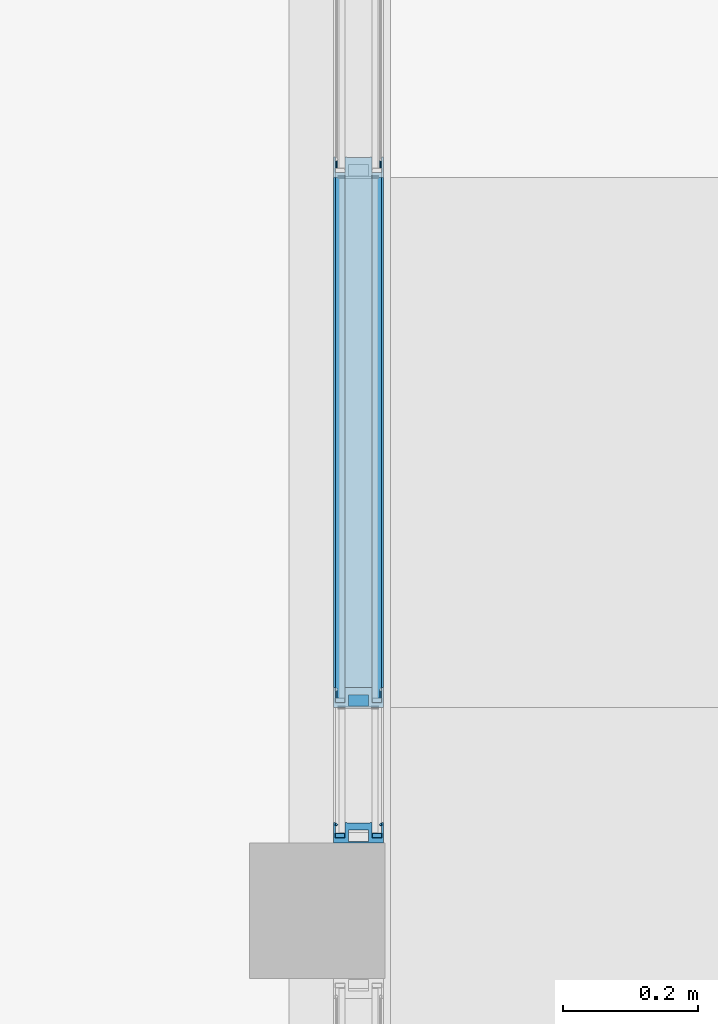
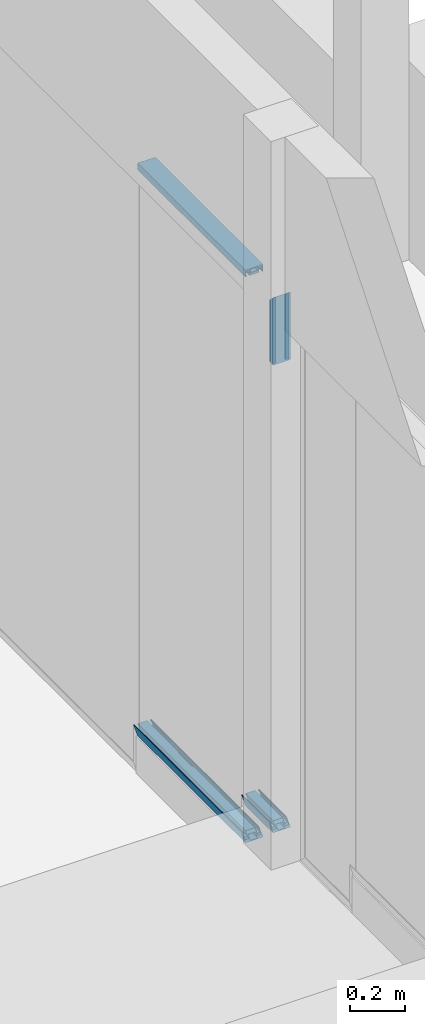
# One storey, part 44 of 65: 8 building element parts, 5 elements without a shape of their own.
"""IFC2X3 building model written with IfcOpenShell, lengths in millimetres."""

from ifc_helpers import new_model, entity, si_unit, converted_unit, derived_unit, money_unit, direction, frame, origin_with_axes, place, context, subcontext, project, spatial, faceted_brep, material, type_object, element, aggregate, save


model = new_model("IFC2X3")

# Units and contexts
model_context = context("Model", 3, precision=0.01, world=origin_with_axes(), true_north=direction((0.0, 1.0)))
body_context = subcontext(model_context, "Body", "Model", "MODEL_VIEW")
ifc_project = project(units=[si_unit("LENGTHUNIT", "METRE", prefix="MILLI"), si_unit("AREAUNIT", "SQUARE_METRE"), si_unit("VOLUMEUNIT", "CUBIC_METRE"), converted_unit("PLANEANGLEUNIT", "DEGREE", entity("IfcPlaneAngleMeasure", 0.0174532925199), si_unit("PLANEANGLEUNIT", "RADIAN"), dimensions=[0, 0, 0, 0, 0, 0, 0]), si_unit("SOLIDANGLEUNIT", "STERADIAN"), money_unit("EUR"), converted_unit("TIMEUNIT", "Year", entity("IfcTimeMeasure", 31556926.0), si_unit("TIMEUNIT", "SECOND"), dimensions=[0, 0, 1, 0, 0, 0, 0]), si_unit("MASSUNIT", "GRAM", prefix="KILO"), si_unit("THERMODYNAMICTEMPERATUREUNIT", "DEGREE_CELSIUS"), si_unit("LUMINOUSINTENSITYUNIT", "LUMEN"), si_unit("ENERGYUNIT", "JOULE", prefix="MEGA"), derived_unit("THERMALCONDUCTANCEUNIT", [(si_unit("POWERUNIT", "WATT"), 1), (si_unit("LENGTHUNIT", "METRE"), -1), (si_unit("THERMODYNAMICTEMPERATUREUNIT", "KELVIN"), -1)]), derived_unit("SPECIFICHEATCAPACITYUNIT", [(si_unit("ENERGYUNIT", "JOULE"), 1), (si_unit("MASSUNIT", "GRAM", prefix="KILO"), -1), (si_unit("THERMODYNAMICTEMPERATUREUNIT", "KELVIN"), -1)]), derived_unit("MASSDENSITYUNIT", [(si_unit("MASSUNIT", "GRAM", prefix="KILO"), 1), (si_unit("VOLUMEUNIT", "CUBIC_METRE"), -1)])], contexts=[model_context])

# Site, building, storey
site_placement = place(None, origin_with_axes())
site = spatial("IfcSite", under=ifc_project, at=site_placement, Name="Puškini 31, Narva", CompositionType="ELEMENT")
building_placement = place(site_placement, origin_with_axes())
building = spatial("IfcBuilding", under=site, at=building_placement, Name="Narva Riigigümnaasium", CompositionType="ELEMENT")
storey_placement = place(building_placement, frame((0.0, 0.0, -1320.0), z_axis=(0.0, 0.0, 1.0), x_axis=(1.0, 0.0, 0.0)))
storey = spatial("IfcBuildingStorey", under=building, at=storey_placement, Name="1.korrus -1.32", CompositionType="ELEMENT", Elevation=-1320.0)

# Curtain wall, members, building element parts
curtain_wall_type = type_object("IfcCurtainWallType", Name="Curtain Wall Type", PredefinedType="NOTDEFINED")
curtain_wall_placement = place(storey_placement, frame((30362.9999988, 164066.428557, -5.96047033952e-06), z_axis=(0.0, 0.0, 1.0), x_axis=(1.0, 0.0, 0.0)))
curtain_wall = element("IfcCurtainWall", 1, at=curtain_wall_placement, inside=storey, type_object=curtain_wall_type, Name="G-SKLF-04")
member_type_1 = type_object("IfcMemberType", Name="Boundary Frame 30 x 37", PredefinedType="MULLION")
member_1_placement = place(curtain_wall_placement, frame((0.0, -166.62855803, 2700.000022), z_axis=(0.0, 1.0, 0.0), x_axis=(0.0, 0.0, 1.0)))
member_1 = element("IfcMember", 2, at=member_1_placement, type_object=member_type_1, Name="G-SKLF-30-raam", ObjectType="MULLION")
ifc_material_1 = material(Name="Klaasvill")
building_element_part_1_placement = place(member_1_placement, origin_with_axes())
building_element_part_1 = element("IfcBuildingElementPart", 3, at=building_element_part_1_placement, material=ifc_material_1, Name="Klaasvill", context=body_context, shape_type="Brep", body=[
    faceted_brep([(-7.49999990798, 20.000000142, 0.0), (-7.49999990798, 20.000000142, 783.0), (-13.8499999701, 20.000000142, 783.0), (-13.8499999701, 20.000000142, 0.0), (-7.49999990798, 34.0161444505, 0.0), (-7.49999990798, 34.0161444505, 783.0), (-13.8499999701, 34.0161444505, 783.0), (-13.8499999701, 34.0161444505, 0.0)], [[[0, 1, 2, 3]], [[4, 5, 1, 0]], [[1, 5, 6, 2]], [[3, 2, 6, 7]], [[0, 3, 7, 4]], [[7, 6, 5, 4]]]),
    faceted_brep([(-24.987414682, 34.0161444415, 0.0), (-24.987414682, 34.0161444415, 783.0), (-25.004489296, 32.0307503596, 783.0), (-25.004489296, 32.0307503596, 0.0), (-28.5126239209, 34.0161444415, 0.0), (-28.5126239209, 34.0161444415, 783.0), (-28.7655837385, 33.0385325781, 783.0), (-28.4955493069, 32.0307503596, 783.0), (-27.75780152, 31.2930025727, 783.0), (-26.7500193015, 31.0229681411, 783.0), (-25.742237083, 31.2930025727, 783.0), (-25.742237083, 31.2930025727, 0.0), (-26.7500193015, 31.0229681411, 0.0), (-27.75780152, 31.2930025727, 0.0), (-28.4955493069, 32.0307503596, 0.0), (-28.7655837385, 33.0385325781, 0.0)], [[[0, 1, 2, 3]], [[4, 5, 1, 0]], [[1, 5, 6, 7, 8, 9, 10, 2]], [[3, 2, 10, 11]], [[0, 3, 11, 12, 13, 14, 15, 4]], [[15, 6, 5, 4]], [[14, 7, 6, 15]], [[13, 8, 7, 14]], [[12, 9, 8, 13]], [[11, 10, 9, 12]]]),
    faceted_brep([(-7.49999990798, -19.9999997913, 0.0), (-7.49999990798, -19.9999997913, 783.0), (-7.49999990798, -34.0161445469, 783.0), (-7.49999990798, -34.0161445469, 0.0), (-13.8499999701, -19.9999997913, 0.0), (-13.8499999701, -19.9999997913, 783.0), (-13.8499999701, -34.0161445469, 783.0), (-13.8499999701, -34.0161445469, 0.0)], [[[0, 1, 2, 3]], [[4, 5, 1, 0]], [[1, 5, 6, 2]], [[3, 2, 6, 7]], [[0, 3, 7, 4]], [[7, 6, 5, 4]]]),
    faceted_brep([(-25.004489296, -32.0307503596, 0.0), (-25.004489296, -32.0307503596, 783.0), (-24.987414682, -34.0161444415, 783.0), (-24.987414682, -34.0161444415, 0.0), (-25.742237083, -31.2930025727, 0.0), (-25.742237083, -31.2930025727, 783.0), (-26.7500193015, -31.0229681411, 783.0), (-27.75780152, -31.2930025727, 783.0), (-28.4955493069, -32.0307503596, 783.0), (-28.7655837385, -33.0385325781, 783.0), (-28.5126239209, -34.0161444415, 783.0), (-28.5126239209, -34.0161444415, 0.0), (-28.7655837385, -33.0385325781, 0.0), (-28.4955493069, -32.0307503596, 0.0), (-27.75780152, -31.2930025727, 0.0), (-26.7500193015, -31.0229681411, 0.0)], [[[0, 1, 2, 3]], [[4, 5, 1, 0]], [[1, 5, 6, 7, 8, 9, 10, 2]], [[3, 2, 10, 11]], [[0, 3, 11, 12, 13, 14, 15, 4]], [[15, 6, 5, 4]], [[14, 7, 6, 15]], [[13, 8, 7, 14]], [[12, 9, 8, 13]], [[11, 10, 9, 12]]]),
])
ifc_material_2 = material(Name="Teras RAL7012")
building_element_part_2_placement = place(member_1_placement, origin_with_axes())
building_element_part_2 = element("IfcBuildingElementPart", 4, at=building_element_part_2_placement, material=ifc_material_2, Name="Teras RAL7012", context=body_context, shape_type="Brep", body=[
    faceted_brep([(0.0, -17.0000000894, 0.0), (0.0, -17.0000000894, 783.0), (-29.5999996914, -17.0000000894, 783.0), (-29.5999996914, -17.0000000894, 0.0), (0.0, 17.0000000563, 0.0), (0.0, 17.0000000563, 783.0), (-29.5999996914, 17.0000000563, 783.0), (-1.9999999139, 15.0000001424, 783.0), (-1.9999999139, -15.0000001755, 783.0), (-18.7999996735, -15.0000001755, 783.0), (-18.7999996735, 15.0000001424, 783.0), (-29.5999996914, 17.0000000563, 0.0), (-1.9999999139, 15.0000001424, 0.0), (-18.7999996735, 15.0000001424, 0.0), (-18.7999996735, -15.0000001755, 0.0), (-1.9999999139, -15.0000001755, 0.0)], [[[0, 1, 2, 3]], [[4, 5, 1, 0]], [[1, 5, 6, 2], [7, 8, 9, 10]], [[3, 2, 6, 11]], [[0, 3, 11, 4], [12, 13, 14, 15]], [[11, 6, 5, 4]], [[15, 8, 7, 12]], [[14, 9, 8, 15]], [[13, 10, 9, 14]], [[12, 7, 10, 13]]]),
    faceted_brep([(0.0, 17.0, 0.0), (0.0, 17.0, 783.0), (-29.5999996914, 17.0000000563, 783.0), (-29.5999996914, 17.0000000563, 0.0), (0.0, 37.0, 0.0), (0.0, 37.0, 783.0), (-30.0000193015, 37.0, 783.0), (-30.0000193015, 34.0161444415, 783.0), (-28.5126239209, 34.0161444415, 783.0), (-24.987414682, 34.0161444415, 783.0), (-13.8499999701, 34.0161444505, 783.0), (-7.49999999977, 34.0161444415, 783.0), (-7.49999999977, 20.0, 783.0), (-13.8499999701, 20.000000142, 783.0), (-30.0000193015, 20.0, 783.0), (-30.0000193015, 17.0, 783.0), (-30.0000193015, 17.0, 0.0), (-30.0000193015, 20.0, 0.0), (-13.8499999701, 20.000000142, 0.0), (-7.49999999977, 20.0, 0.0), (-7.49999999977, 34.0161444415, 0.0), (-13.8499999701, 34.0161444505, 0.0), (-24.987414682, 34.0161444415, 0.0), (-28.5126239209, 34.0161444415, 0.0), (-30.0000193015, 34.0161444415, 0.0), (-30.0000193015, 37.0, 0.0)], [[[0, 1, 2, 3]], [[4, 5, 1, 0]], [[1, 5, 6, 7, 8, 9, 10, 11, 12, 13, 14, 15, 2]], [[3, 2, 15, 16]], [[0, 3, 16, 17, 18, 19, 20, 21, 22, 23, 24, 25, 4]], [[25, 6, 5, 4]], [[24, 7, 6, 25]], [[23, 8, 7, 24]], [[22, 9, 8, 23]], [[21, 10, 9, 22]], [[20, 11, 10, 21]], [[19, 12, 11, 20]], [[18, 13, 12, 19]], [[17, 14, 13, 18]], [[16, 15, 14, 17]]]),
    faceted_brep([(0.0, -17.0, 0.0), (0.0, -17.0, 783.0), (0.0, -37.0, 783.0), (0.0, -37.0, 0.0), (-29.5999996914, -17.0000000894, 0.0), (-29.5999996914, -17.0000000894, 783.0), (-30.0000193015, -17.0, 783.0), (-30.0000193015, -20.0, 783.0), (-13.8499999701, -19.9999997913, 783.0), (-7.49999999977, -20.0, 783.0), (-7.49999999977, -34.0161444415, 783.0), (-13.8499999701, -34.0161445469, 783.0), (-24.987414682, -34.0161444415, 783.0), (-28.5126239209, -34.0161444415, 783.0), (-30.0000193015, -34.0161444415, 783.0), (-30.0000193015, -37.0, 783.0), (-30.0000193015, -37.0, 0.0), (-30.0000193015, -34.0161444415, 0.0), (-28.5126239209, -34.0161444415, 0.0), (-24.987414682, -34.0161444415, 0.0), (-13.8499999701, -34.0161445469, 0.0), (-7.49999999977, -34.0161444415, 0.0), (-7.49999999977, -20.0, 0.0), (-13.8499999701, -19.9999997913, 0.0), (-30.0000193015, -20.0, 0.0), (-30.0000193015, -17.0, 0.0)], [[[0, 1, 2, 3]], [[4, 5, 1, 0]], [[1, 5, 6, 7, 8, 9, 10, 11, 12, 13, 14, 15, 2]], [[3, 2, 15, 16]], [[0, 3, 16, 17, 18, 19, 20, 21, 22, 23, 24, 25, 4]], [[25, 6, 5, 4]], [[24, 7, 6, 25]], [[23, 8, 7, 24]], [[22, 9, 8, 23]], [[21, 10, 9, 22]], [[20, 11, 10, 21]], [[19, 12, 11, 20]], [[18, 13, 12, 19]], [[17, 14, 13, 18]], [[16, 15, 14, 17]]]),
])
aggregate(member_1, [building_element_part_1, building_element_part_2])
member_2_placement = place(curtain_wall_placement, frame((0.0, -366.428604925, 2700.000022), z_axis=(0.0, 0.0, -1.0), x_axis=(0.0, 1.0, 0.0)))
member_2 = element("IfcMember", 5, at=member_2_placement, type_object=member_type_1, Name="G-SKLF-32-raam", ObjectType="MULLION")
building_element_part_3_placement = place(member_2_placement, origin_with_axes())
building_element_part_3 = element("IfcBuildingElementPart", 6, at=building_element_part_3_placement, material=ifc_material_1, Name="Klaasvill", context=body_context, shape_type="Brep", body=[
    faceted_brep([(13.8499999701, 20.000000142, 13.8499999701), (13.8499999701, 20.000000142, 300.000016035), (7.49999990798, 20.000000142, 300.000016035), (7.49999990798, 20.000000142, 7.49999990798), (13.8499999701, 34.0161444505, 13.8499999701), (13.8499999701, 34.0161444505, 300.000016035), (7.49999990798, 34.0161444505, 300.000016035), (7.49999990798, 34.0161444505, 7.49999990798)], [[[0, 1, 2, 3]], [[4, 5, 1, 0]], [[2, 1, 5, 6]], [[3, 2, 6, 7]], [[3, 7, 4, 0]], [[7, 6, 5, 4]]]),
    faceted_brep([(25.004489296, 32.0307503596, 25.004489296), (25.004489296, 32.0307503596, 300.000016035), (24.987414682, 34.0161444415, 300.000016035), (24.987414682, 34.0161444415, 24.987414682), (25.742237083, 31.2930025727, 25.742237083), (25.742237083, 31.2930025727, 300.000016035), (26.7500193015, 31.0229681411, 300.000016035), (27.75780152, 31.2930025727, 300.000016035), (28.4955493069, 32.0307503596, 300.000016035), (28.7655837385, 33.0385325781, 300.000016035), (28.5126239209, 34.0161444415, 300.000016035), (28.5126239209, 34.0161444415, 28.5126239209), (28.7655837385, 33.0385325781, 28.7655837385), (28.4955493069, 32.0307503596, 28.4955493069), (27.75780152, 31.2930025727, 27.75780152), (26.7500193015, 31.0229681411, 26.7500193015)], [[[0, 1, 2, 3]], [[4, 5, 1, 0]], [[2, 1, 5, 6, 7, 8, 9, 10]], [[3, 2, 10, 11]], [[3, 11, 12, 13, 14, 15, 4, 0]], [[15, 6, 5, 4]], [[14, 7, 6, 15]], [[13, 8, 7, 14]], [[12, 9, 8, 13]], [[11, 10, 9, 12]]]),
    faceted_brep([(7.49999990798, -34.0161445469, 7.49999990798), (7.49999990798, -34.0161445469, 300.000016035), (7.49999990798, -19.9999997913, 300.000016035), (7.49999990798, -19.9999997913, 7.49999990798), (13.8499999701, -34.0161445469, 13.8499999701), (13.8499999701, -34.0161445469, 300.000016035), (13.8499999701, -19.9999997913, 300.000016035), (13.8499999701, -19.9999997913, 13.8499999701)], [[[0, 1, 2, 3]], [[4, 5, 1, 0]], [[2, 1, 5, 6]], [[3, 2, 6, 7]], [[3, 7, 4, 0]], [[7, 6, 5, 4]]]),
    faceted_brep([(24.987414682, -34.0161444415, 24.987414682), (24.987414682, -34.0161444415, 300.000016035), (25.004489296, -32.0307503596, 300.000016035), (25.004489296, -32.0307503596, 25.004489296), (28.5126239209, -34.0161444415, 28.5126239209), (28.5126239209, -34.0161444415, 300.000016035), (28.7655837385, -33.0385325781, 300.000016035), (28.4955493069, -32.0307503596, 300.000016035), (27.75780152, -31.2930025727, 300.000016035), (26.7500193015, -31.0229681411, 300.000016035), (25.742237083, -31.2930025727, 300.000016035), (25.742237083, -31.2930025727, 25.742237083), (26.7500193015, -31.0229681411, 26.7500193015), (27.75780152, -31.2930025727, 27.75780152), (28.4955493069, -32.0307503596, 28.4955493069), (28.7655837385, -33.0385325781, 28.7655837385)], [[[0, 1, 2, 3]], [[4, 5, 1, 0]], [[2, 1, 5, 6, 7, 8, 9, 10]], [[3, 2, 10, 11]], [[3, 11, 12, 13, 14, 15, 4, 0]], [[15, 6, 5, 4]], [[14, 7, 6, 15]], [[13, 8, 7, 14]], [[12, 9, 8, 13]], [[11, 10, 9, 12]]]),
])
building_element_part_4_placement = place(member_2_placement, origin_with_axes())
building_element_part_4 = element("IfcBuildingElementPart", 7, at=building_element_part_4_placement, material=ifc_material_2, Name="Teras RAL7012", context=body_context, shape_type="Brep", body=[
    faceted_brep([(29.5999996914, -17.0000000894, 29.5999996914), (29.5999996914, -17.0000000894, 300.000016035), (0.0, -17.0000000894, 300.000016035), (0.0, -17.0000000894, 0.0), (29.5999996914, 17.0000000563, 29.5999996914), (29.5999996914, 17.0000000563, 300.000016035), (0.0, 17.0000000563, 300.000016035), (1.9999999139, 15.0000001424, 300.000016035), (18.7999996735, 15.0000001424, 300.000016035), (18.7999996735, -15.0000001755, 300.000016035), (1.9999999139, -15.0000001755, 300.000016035), (0.0, 17.0000000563, 0.0), (1.9999999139, 15.0000001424, 1.9999999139), (1.9999999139, -15.0000001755, 1.9999999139), (18.7999996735, -15.0000001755, 18.7999996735), (18.7999996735, 15.0000001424, 18.7999996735)], [[[0, 1, 2, 3]], [[4, 5, 1, 0]], [[2, 1, 5, 6], [7, 8, 9, 10]], [[3, 2, 6, 11]], [[3, 11, 4, 0], [12, 13, 14, 15]], [[11, 6, 5, 4]], [[15, 8, 7, 12]], [[14, 9, 8, 15]], [[13, 10, 9, 14]], [[12, 7, 10, 13]]]),
    faceted_brep([(29.5999996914, 17.0000000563, 29.5999996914), (29.5999996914, 17.0000000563, 300.000016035), (0.0, 17.0, 300.000016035), (0.0, 17.0, 0.0), (30.0000193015, 17.0, 30.0000193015), (30.0000193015, 17.0, 300.000016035), (30.0000193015, 20.0, 300.000016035), (13.8499999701, 20.000000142, 300.000016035), (7.49999999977, 20.0, 300.000016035), (7.49999999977, 34.0161444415, 300.000016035), (13.8499999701, 34.0161444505, 300.000016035), (24.987414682, 34.0161444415, 300.000016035), (28.5126239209, 34.0161444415, 300.000016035), (30.0000193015, 34.0161444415, 300.000016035), (30.0000193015, 37.0, 300.000016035), (0.0, 37.0, 300.000016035), (0.0, 37.0, 0.0), (30.0000193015, 37.0, 30.0000193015), (30.0000193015, 34.0161444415, 30.0000193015), (28.5126239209, 34.0161444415, 28.5126239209), (24.987414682, 34.0161444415, 24.987414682), (13.8499999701, 34.0161444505, 13.8499999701), (7.49999999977, 34.0161444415, 7.49999999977), (7.49999999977, 20.0, 7.49999999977), (13.8499999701, 20.000000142, 13.8499999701), (30.0000193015, 20.0, 30.0000193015)], [[[0, 1, 2, 3]], [[4, 5, 1, 0]], [[2, 1, 5, 6, 7, 8, 9, 10, 11, 12, 13, 14, 15]], [[3, 2, 15, 16]], [[3, 16, 17, 18, 19, 20, 21, 22, 23, 24, 25, 4, 0]], [[25, 6, 5, 4]], [[24, 7, 6, 25]], [[23, 8, 7, 24]], [[22, 9, 8, 23]], [[21, 10, 9, 22]], [[20, 11, 10, 21]], [[19, 12, 11, 20]], [[18, 13, 12, 19]], [[17, 14, 13, 18]], [[16, 15, 14, 17]]]),
    faceted_brep([(0.0, -37.0, 0.0), (0.0, -37.0, 300.000016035), (0.0, -17.0, 300.000016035), (0.0, -17.0, 0.0), (30.0000193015, -37.0, 30.0000193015), (30.0000193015, -37.0, 300.000016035), (30.0000193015, -34.0161444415, 300.000016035), (28.5126239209, -34.0161444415, 300.000016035), (24.987414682, -34.0161444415, 300.000016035), (13.8499999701, -34.0161445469, 300.000016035), (7.49999999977, -34.0161444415, 300.000016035), (7.49999999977, -20.0, 300.000016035), (13.8499999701, -19.9999997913, 300.000016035), (30.0000193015, -20.0, 300.000016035), (30.0000193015, -17.0, 300.000016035), (29.5999996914, -17.0000000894, 300.000016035), (29.5999996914, -17.0000000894, 29.5999996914), (30.0000193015, -17.0, 30.0000193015), (30.0000193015, -20.0, 30.0000193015), (13.8499999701, -19.9999997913, 13.8499999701), (7.49999999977, -20.0, 7.49999999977), (7.49999999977, -34.0161444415, 7.49999999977), (13.8499999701, -34.0161445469, 13.8499999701), (24.987414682, -34.0161444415, 24.987414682), (28.5126239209, -34.0161444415, 28.5126239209), (30.0000193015, -34.0161444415, 30.0000193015)], [[[0, 1, 2, 3]], [[4, 5, 1, 0]], [[2, 1, 5, 6, 7, 8, 9, 10, 11, 12, 13, 14, 15]], [[3, 2, 15, 16]], [[3, 16, 17, 18, 19, 20, 21, 22, 23, 24, 25, 4, 0]], [[25, 6, 5, 4]], [[24, 7, 6, 25]], [[23, 8, 7, 24]], [[22, 9, 8, 23]], [[21, 10, 9, 22]], [[20, 11, 10, 21]], [[19, 12, 11, 20]], [[18, 13, 12, 19]], [[17, 14, 13, 18]], [[16, 15, 14, 17]]]),
])
aggregate(member_2, [building_element_part_3, building_element_part_4])
member_type_2 = type_object("IfcMemberType", Name="30 x 37", PredefinedType="MULLION")
member_3_placement = place(curtain_wall_placement, frame((0.0, -166.62855803, 165.000000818), z_axis=(0.0, 1.0, 0.0), x_axis=(0.0, 0.0, 1.0)))
member_3 = element("IfcMember", 8, at=member_3_placement, type_object=member_type_2, Name="G-SKLF-37-raam", ObjectType="MULLION")
building_element_part_5_placement = place(member_3_placement, origin_with_axes())
building_element_part_5 = element("IfcBuildingElementPart", 9, at=building_element_part_5_placement, material=ifc_material_1, Name="Klaasvill", context=body_context, shape_type="Brep", body=[
    faceted_brep([(13.8499999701, 20.000000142, 13.8499999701), (13.8499999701, 20.000000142, 796.84999997), (7.49999990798, 20.000000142, 790.499999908), (7.49999990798, 20.000000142, 7.49999990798), (13.8499999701, 34.0161444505, 13.8499999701), (13.8499999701, 34.0161444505, 796.84999997), (7.49999990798, 34.0161444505, 790.499999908), (7.49999990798, 34.0161444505, 7.49999990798)], [[[0, 1, 2, 3]], [[4, 5, 1, 0]], [[2, 1, 5, 6]], [[3, 2, 6, 7]], [[3, 7, 4, 0]], [[7, 6, 5, 4]]]),
    faceted_brep([(25.004489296, 32.0307503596, 25.004489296), (25.004489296, 32.0307503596, 808.004489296), (24.987414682, 34.0161444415, 807.987414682), (24.987414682, 34.0161444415, 24.987414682), (25.742237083, 31.2930025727, 25.742237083), (25.742237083, 31.2930025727, 808.742237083), (26.7500193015, 31.0229681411, 809.750019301), (27.75780152, 31.2930025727, 810.75780152), (28.4955493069, 32.0307503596, 811.495549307), (28.7655837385, 33.0385325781, 811.765583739), (28.5126239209, 34.0161444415, 811.512623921), (28.5126239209, 34.0161444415, 28.5126239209), (28.7655837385, 33.0385325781, 28.7655837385), (28.4955493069, 32.0307503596, 28.4955493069), (27.75780152, 31.2930025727, 27.75780152), (26.7500193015, 31.0229681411, 26.7500193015)], [[[0, 1, 2, 3]], [[4, 5, 1, 0]], [[2, 1, 5, 6, 7, 8, 9, 10]], [[3, 2, 10, 11]], [[3, 11, 12, 13, 14, 15, 4, 0]], [[15, 6, 5, 4]], [[14, 7, 6, 15]], [[13, 8, 7, 14]], [[12, 9, 8, 13]], [[11, 10, 9, 12]]]),
    faceted_brep([(7.49999990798, -34.0161445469, 7.49999990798), (7.49999990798, -34.0161445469, 790.499999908), (7.49999990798, -19.9999997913, 790.499999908), (7.49999990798, -19.9999997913, 7.49999990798), (13.8499999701, -34.0161445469, 13.8499999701), (13.8499999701, -34.0161445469, 796.84999997), (13.8499999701, -19.9999997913, 796.84999997), (13.8499999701, -19.9999997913, 13.8499999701)], [[[0, 1, 2, 3]], [[4, 5, 1, 0]], [[2, 1, 5, 6]], [[3, 2, 6, 7]], [[3, 7, 4, 0]], [[7, 6, 5, 4]]]),
    faceted_brep([(24.987414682, -34.0161444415, 24.987414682), (24.987414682, -34.0161444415, 807.987414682), (25.004489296, -32.0307503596, 808.004489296), (25.004489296, -32.0307503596, 25.004489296), (28.5126239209, -34.0161444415, 28.5126239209), (28.5126239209, -34.0161444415, 811.512623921), (28.7655837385, -33.0385325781, 811.765583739), (28.4955493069, -32.0307503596, 811.495549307), (27.75780152, -31.2930025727, 810.75780152), (26.7500193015, -31.0229681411, 809.750019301), (25.742237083, -31.2930025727, 808.742237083), (25.742237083, -31.2930025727, 25.742237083), (26.7500193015, -31.0229681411, 26.7500193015), (27.75780152, -31.2930025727, 27.75780152), (28.4955493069, -32.0307503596, 28.4955493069), (28.7655837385, -33.0385325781, 28.7655837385)], [[[0, 1, 2, 3]], [[4, 5, 1, 0]], [[2, 1, 5, 6, 7, 8, 9, 10]], [[3, 2, 10, 11]], [[3, 11, 12, 13, 14, 15, 4, 0]], [[15, 6, 5, 4]], [[14, 7, 6, 15]], [[13, 8, 7, 14]], [[12, 9, 8, 13]], [[11, 10, 9, 12]]]),
])
building_element_part_6_placement = place(member_3_placement, origin_with_axes())
building_element_part_6 = element("IfcBuildingElementPart", 10, at=building_element_part_6_placement, material=ifc_material_2, Name="Teras RAL7012", context=body_context, shape_type="Brep", body=[
    faceted_brep([(29.5999996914, -17.0000000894, 29.5999996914), (29.5999996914, -17.0000000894, 812.599999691), (0.0, -17.0000000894, 783.0), (0.0, -17.0000000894, 0.0), (29.5999996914, 17.0000000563, 29.5999996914), (29.5999996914, 17.0000000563, 812.599999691), (0.0, 17.0000000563, 783.0), (1.9999999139, 15.0000001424, 784.999999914), (18.7999996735, 15.0000001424, 801.799999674), (18.7999996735, -15.0000001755, 801.799999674), (1.9999999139, -15.0000001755, 784.999999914), (0.0, 17.0000000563, 0.0), (1.9999999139, 15.0000001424, 1.9999999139), (1.9999999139, -15.0000001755, 1.9999999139), (18.7999996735, -15.0000001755, 18.7999996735), (18.7999996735, 15.0000001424, 18.7999996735)], [[[0, 1, 2, 3]], [[4, 5, 1, 0]], [[2, 1, 5, 6], [7, 8, 9, 10]], [[3, 2, 6, 11]], [[3, 11, 4, 0], [12, 13, 14, 15]], [[11, 6, 5, 4]], [[15, 8, 7, 12]], [[14, 9, 8, 15]], [[13, 10, 9, 14]], [[12, 7, 10, 13]]]),
    faceted_brep([(0.0, 17.0, 0.0), (0.0, 17.0, 783.0), (0.0, 37.0, 783.0), (0.0, 37.0, 0.0), (29.5999996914, 17.0000000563, 29.5999996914), (29.5999996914, 17.0000000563, 812.599999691), (30.0000193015, 17.0, 813.000019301), (30.0000193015, 20.0, 813.000019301), (13.8499999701, 20.000000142, 796.84999997), (7.49999999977, 20.0, 790.5), (7.49999999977, 34.0161444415, 790.5), (13.8499999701, 34.0161444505, 796.84999997), (24.987414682, 34.0161444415, 807.987414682), (28.5126239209, 34.0161444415, 811.512623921), (30.0000193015, 34.0161444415, 813.000019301), (30.0000193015, 37.0, 813.000019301), (30.0000193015, 37.0, 30.0000193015), (30.0000193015, 34.0161444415, 30.0000193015), (28.5126239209, 34.0161444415, 28.5126239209), (24.987414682, 34.0161444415, 24.987414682), (13.8499999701, 34.0161444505, 13.8499999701), (7.49999999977, 34.0161444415, 7.49999999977), (7.49999999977, 20.0, 7.49999999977), (13.8499999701, 20.000000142, 13.8499999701), (30.0000193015, 20.0, 30.0000193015), (30.0000193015, 17.0, 30.0000193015)], [[[0, 1, 2, 3]], [[1, 0, 4, 5]], [[2, 1, 5, 6, 7, 8, 9, 10, 11, 12, 13, 14, 15]], [[3, 2, 15, 16]], [[0, 3, 16, 17, 18, 19, 20, 21, 22, 23, 24, 25, 4]], [[5, 4, 25, 6]], [[6, 25, 24, 7]], [[23, 8, 7, 24]], [[22, 9, 8, 23]], [[9, 22, 21, 10]], [[10, 21, 20, 11]], [[11, 20, 19, 12]], [[12, 19, 18, 13]], [[13, 18, 17, 14]], [[15, 14, 17, 16]]]),
    faceted_brep([(0.0, -37.0, 0.0), (0.0, -37.0, 783.0), (0.0, -17.0, 783.0), (0.0, -17.0, 0.0), (30.0000193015, -37.0, 30.0000193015), (30.0000193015, -37.0, 813.000019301), (30.0000193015, -34.0161444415, 813.000019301), (28.5126239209, -34.0161444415, 811.512623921), (24.987414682, -34.0161444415, 807.987414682), (13.8499999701, -34.0161445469, 796.84999997), (7.49999999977, -34.0161444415, 790.5), (7.49999999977, -20.0, 790.5), (13.8499999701, -19.9999997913, 796.84999997), (30.0000193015, -20.0, 813.000019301), (30.0000193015, -17.0, 813.000019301), (29.5999996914, -17.0000000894, 812.599999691), (29.5999996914, -17.0000000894, 29.5999996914), (30.0000193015, -17.0, 30.0000193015), (30.0000193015, -20.0, 30.0000193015), (13.8499999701, -19.9999997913, 13.8499999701), (7.49999999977, -20.0, 7.49999999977), (7.49999999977, -34.0161444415, 7.49999999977), (13.8499999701, -34.0161445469, 13.8499999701), (24.987414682, -34.0161444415, 24.987414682), (28.5126239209, -34.0161444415, 28.5126239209), (30.0000193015, -34.0161444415, 30.0000193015)], [[[0, 1, 2, 3]], [[1, 0, 4, 5]], [[2, 1, 5, 6, 7, 8, 9, 10, 11, 12, 13, 14, 15]], [[3, 2, 15, 16]], [[0, 3, 16, 17, 18, 19, 20, 21, 22, 23, 24, 25, 4]], [[6, 5, 4, 25]], [[24, 7, 6, 25]], [[23, 8, 7, 24]], [[22, 9, 8, 23]], [[9, 22, 21, 10]], [[10, 21, 20, 11]], [[11, 20, 19, 12]], [[12, 19, 18, 13]], [[14, 13, 18, 17]], [[16, 15, 14, 17]]]),
])
aggregate(member_3, [building_element_part_5, building_element_part_6])
member_4_placement = place(curtain_wall_placement, frame((0.0, -366.428604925, 330.000000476), z_axis=(0.0, 1.0, 0.0), x_axis=(0.0, 0.0, 1.0)))
member_4 = element("IfcMember", 11, at=member_4_placement, type_object=member_type_2, Name="G-SKLF-38-raam", ObjectType="MULLION")
aggregate(curtain_wall, [member_1, member_2, member_3, member_4])
building_element_part_7_placement = place(member_4_placement, origin_with_axes())
building_element_part_7 = element("IfcBuildingElementPart", 12, at=building_element_part_7_placement, material=ifc_material_1, Name="Klaasvill", context=body_context, shape_type="Brep", body=[
    faceted_brep([(13.8499999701, 20.000000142, 13.8499999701), (13.8499999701, 20.000000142, 213.650046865), (7.49999990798, 20.000000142, 207.300046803), (7.49999990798, 20.000000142, 7.49999990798), (13.8499999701, 34.0161444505, 13.8499999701), (13.8499999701, 34.0161444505, 213.650046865), (7.49999990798, 34.0161444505, 207.300046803), (7.49999990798, 34.0161444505, 7.49999990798)], [[[0, 1, 2, 3]], [[4, 5, 1, 0]], [[2, 1, 5, 6]], [[3, 2, 6, 7]], [[3, 7, 4, 0]], [[7, 6, 5, 4]]]),
    faceted_brep([(25.004489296, 32.0307503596, 25.004489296), (25.004489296, 32.0307503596, 224.804536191), (24.987414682, 34.0161444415, 224.787461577), (24.987414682, 34.0161444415, 24.987414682), (25.742237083, 31.2930025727, 25.742237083), (25.742237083, 31.2930025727, 225.542283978), (26.7500193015, 31.0229681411, 226.550066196), (27.75780152, 31.2930025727, 227.557848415), (28.4955493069, 32.0307503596, 228.295596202), (28.7655837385, 33.0385325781, 228.565630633), (28.5126239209, 34.0161444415, 228.312670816), (28.5126239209, 34.0161444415, 28.5126239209), (28.7655837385, 33.0385325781, 28.7655837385), (28.4955493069, 32.0307503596, 28.4955493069), (27.75780152, 31.2930025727, 27.75780152), (26.7500193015, 31.0229681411, 26.7500193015)], [[[0, 1, 2, 3]], [[4, 5, 1, 0]], [[2, 1, 5, 6, 7, 8, 9, 10]], [[3, 2, 10, 11]], [[3, 11, 12, 13, 14, 15, 4, 0]], [[15, 6, 5, 4]], [[14, 7, 6, 15]], [[13, 8, 7, 14]], [[12, 9, 8, 13]], [[11, 10, 9, 12]]]),
    faceted_brep([(7.49999990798, -34.0161445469, 7.49999990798), (7.49999990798, -34.0161445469, 207.300046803), (7.49999990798, -19.9999997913, 207.300046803), (7.49999990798, -19.9999997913, 7.49999990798), (13.8499999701, -34.0161445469, 13.8499999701), (13.8499999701, -34.0161445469, 213.650046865), (13.8499999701, -19.9999997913, 213.650046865), (13.8499999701, -19.9999997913, 13.8499999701)], [[[0, 1, 2, 3]], [[4, 5, 1, 0]], [[2, 1, 5, 6]], [[3, 2, 6, 7]], [[3, 7, 4, 0]], [[7, 6, 5, 4]]]),
    faceted_brep([(24.987414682, -34.0161444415, 24.987414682), (24.987414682, -34.0161444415, 224.787461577), (25.004489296, -32.0307503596, 224.804536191), (25.004489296, -32.0307503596, 25.004489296), (28.5126239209, -34.0161444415, 28.5126239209), (28.5126239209, -34.0161444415, 228.312670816), (28.7655837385, -33.0385325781, 228.565630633), (28.4955493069, -32.0307503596, 228.295596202), (27.75780152, -31.2930025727, 227.557848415), (26.7500193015, -31.0229681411, 226.550066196), (25.742237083, -31.2930025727, 225.542283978), (25.742237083, -31.2930025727, 25.742237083), (26.7500193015, -31.0229681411, 26.7500193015), (27.75780152, -31.2930025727, 27.75780152), (28.4955493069, -32.0307503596, 28.4955493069), (28.7655837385, -33.0385325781, 28.7655837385)], [[[0, 1, 2, 3]], [[4, 5, 1, 0]], [[2, 1, 5, 6, 7, 8, 9, 10]], [[3, 2, 10, 11]], [[3, 11, 12, 13, 14, 15, 4, 0]], [[15, 6, 5, 4]], [[14, 7, 6, 15]], [[13, 8, 7, 14]], [[12, 9, 8, 13]], [[11, 10, 9, 12]]]),
])
building_element_part_8_placement = place(member_4_placement, origin_with_axes())
building_element_part_8 = element("IfcBuildingElementPart", 13, at=building_element_part_8_placement, material=ifc_material_2, Name="Teras RAL7012", context=body_context, shape_type="Brep", body=[
    faceted_brep([(29.5999996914, -17.0000000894, 29.5999996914), (29.5999996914, -17.0000000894, 229.400046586), (0.0, -17.0000000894, 199.800046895), (0.0, -17.0000000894, 0.0), (29.5999996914, 17.0000000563, 29.5999996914), (29.5999996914, 17.0000000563, 229.400046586), (0.0, 17.0000000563, 199.800046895), (1.9999999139, 15.0000001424, 201.800046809), (18.7999996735, 15.0000001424, 218.600046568), (18.7999996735, -15.0000001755, 218.600046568), (1.9999999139, -15.0000001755, 201.800046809), (0.0, 17.0000000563, 0.0), (1.9999999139, 15.0000001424, 1.9999999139), (1.9999999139, -15.0000001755, 1.9999999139), (18.7999996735, -15.0000001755, 18.7999996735), (18.7999996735, 15.0000001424, 18.7999996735)], [[[0, 1, 2, 3]], [[4, 5, 1, 0]], [[2, 1, 5, 6], [7, 8, 9, 10]], [[3, 2, 6, 11]], [[3, 11, 4, 0], [12, 13, 14, 15]], [[11, 6, 5, 4]], [[15, 8, 7, 12]], [[14, 9, 8, 15]], [[13, 10, 9, 14]], [[12, 7, 10, 13]]]),
    faceted_brep([(0.0, 17.0, 0.0), (0.0, 17.0, 199.800046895), (0.0, 37.0, 199.800046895), (0.0, 37.0, 0.0), (29.5999996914, 17.0000000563, 29.5999996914), (29.5999996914, 17.0000000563, 229.400046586), (30.0000193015, 17.0, 229.800066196), (30.0000193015, 20.0, 229.800066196), (13.8499999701, 20.000000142, 213.650046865), (7.49999999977, 20.0, 207.300046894), (7.49999999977, 34.0161444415, 207.300046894), (13.8499999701, 34.0161444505, 213.650046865), (24.987414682, 34.0161444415, 224.787461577), (28.5126239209, 34.0161444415, 228.312670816), (30.0000193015, 34.0161444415, 229.800066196), (30.0000193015, 37.0, 229.800066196), (30.0000193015, 37.0, 30.0000193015), (30.0000193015, 34.0161444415, 30.0000193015), (28.5126239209, 34.0161444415, 28.5126239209), (24.987414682, 34.0161444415, 24.987414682), (13.8499999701, 34.0161444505, 13.8499999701), (7.49999999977, 34.0161444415, 7.49999999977), (7.49999999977, 20.0, 7.49999999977), (13.8499999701, 20.000000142, 13.8499999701), (30.0000193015, 20.0, 30.0000193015), (30.0000193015, 17.0, 30.0000193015)], [[[0, 1, 2, 3]], [[1, 0, 4, 5]], [[2, 1, 5, 6, 7, 8, 9, 10, 11, 12, 13, 14, 15]], [[3, 2, 15, 16]], [[0, 3, 16, 17, 18, 19, 20, 21, 22, 23, 24, 25, 4]], [[5, 4, 25, 6]], [[7, 6, 25, 24]], [[23, 8, 7, 24]], [[22, 9, 8, 23]], [[9, 22, 21, 10]], [[10, 21, 20, 11]], [[11, 20, 19, 12]], [[12, 19, 18, 13]], [[13, 18, 17, 14]], [[15, 14, 17, 16]]]),
    faceted_brep([(0.0, -37.0, 0.0), (0.0, -37.0, 199.800046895), (0.0, -17.0, 199.800046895), (0.0, -17.0, 0.0), (30.0000193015, -37.0, 30.0000193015), (30.0000193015, -37.0, 229.800066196), (30.0000193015, -34.0161444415, 229.800066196), (28.5126239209, -34.0161444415, 228.312670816), (24.987414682, -34.0161444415, 224.787461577), (13.8499999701, -34.0161445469, 213.650046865), (7.49999999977, -34.0161444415, 207.300046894), (7.49999999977, -20.0, 207.300046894), (13.8499999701, -19.9999997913, 213.650046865), (30.0000193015, -20.0, 229.800066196), (30.0000193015, -17.0, 229.800066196), (29.5999996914, -17.0000000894, 229.400046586), (29.5999996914, -17.0000000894, 29.5999996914), (30.0000193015, -17.0, 30.0000193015), (30.0000193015, -20.0, 30.0000193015), (13.8499999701, -19.9999997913, 13.8499999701), (7.49999999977, -20.0, 7.49999999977), (7.49999999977, -34.0161444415, 7.49999999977), (13.8499999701, -34.0161445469, 13.8499999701), (24.987414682, -34.0161444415, 24.987414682), (28.5126239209, -34.0161444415, 28.5126239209), (30.0000193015, -34.0161444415, 30.0000193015)], [[[0, 1, 2, 3]], [[1, 0, 4, 5]], [[2, 1, 5, 6, 7, 8, 9, 10, 11, 12, 13, 14, 15]], [[3, 2, 15, 16]], [[0, 3, 16, 17, 18, 19, 20, 21, 22, 23, 24, 25, 4]], [[5, 4, 25, 6]], [[24, 7, 6, 25]], [[23, 8, 7, 24]], [[22, 9, 8, 23]], [[9, 22, 21, 10]], [[10, 21, 20, 11]], [[11, 20, 19, 12]], [[12, 19, 18, 13]], [[14, 13, 18, 17]], [[16, 15, 14, 17]]]),
])
aggregate(member_4, [building_element_part_7, building_element_part_8])

save(model, "model.ifc")
